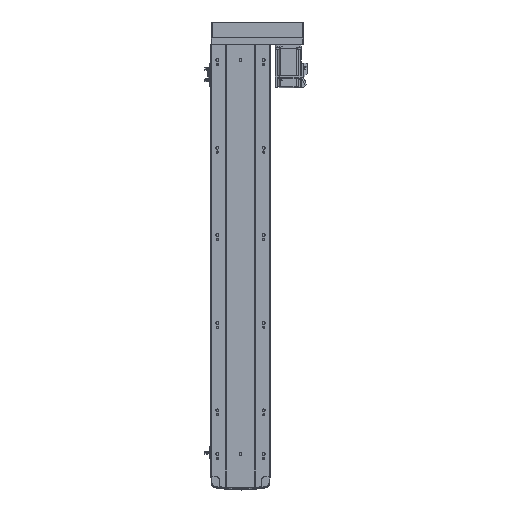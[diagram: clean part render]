
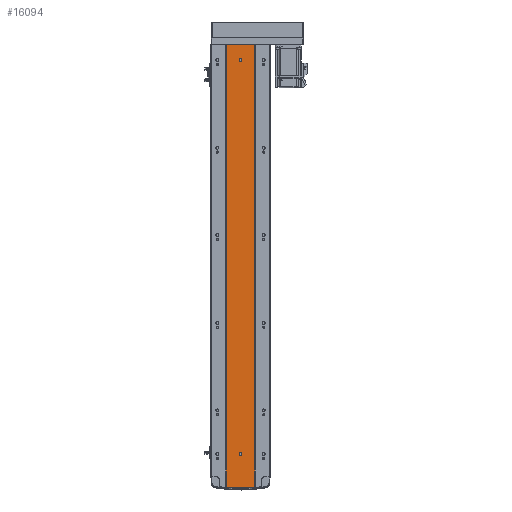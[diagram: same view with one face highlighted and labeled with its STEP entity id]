
A CAD part, top view. The second image highlights one B-rep face of the part: STEP entity #16094.
In plain terms, the highlighted planar face has unit normal (0, 0, 1).
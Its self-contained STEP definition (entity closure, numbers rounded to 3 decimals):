
#576 = LINE ( 'NONE', #60429, #31004 ) ;
#2018 = DIRECTION ( 'NONE',  ( 0., 0., 1. ) ) ;
#2036 = FACE_BOUND ( 'NONE', #46925, .T. ) ;
#2234 = CARTESIAN_POINT ( 'NONE',  ( 0., -36.5, 35.45 ) ) ;
#2279 = VERTEX_POINT ( 'NONE', #23704 ) ;
#6227 = EDGE_CURVE ( 'NONE', #2279, #22730, #58750, .T. ) ;
#7359 = CARTESIAN_POINT ( 'NONE',  ( 3., -935.5, 35.45 ) ) ;
#8913 = VECTOR ( 'NONE', #51544, 1000. ) ;
#9172 = CARTESIAN_POINT ( 'NONE',  ( -32.5, -1011.5, 35.45 ) ) ;
#9599 = EDGE_CURVE ( 'NONE', #17360, #52411, #29610, .T. ) ;
#9944 = AXIS2_PLACEMENT_3D ( 'NONE', #28213, #13946, #28425 ) ;
#10492 = CARTESIAN_POINT ( 'NONE',  ( -32.5, 0., 35.45 ) ) ;
#10806 = VERTEX_POINT ( 'NONE', #11103 ) ;
#11103 = CARTESIAN_POINT ( 'NONE',  ( 32.5, 0., 35.45 ) ) ;
#11334 = DIRECTION ( 'NONE',  ( 1., 0., 0. ) ) ;
#12814 = ORIENTED_EDGE ( 'NONE', *, *, #47952, .F. ) ;
#13946 = DIRECTION ( 'NONE',  ( 0., 0., 1. ) ) ;
#15797 = CARTESIAN_POINT ( 'NONE',  ( 0., -935.5, 35.45 ) ) ;
#16094 = ADVANCED_FACE ( 'NONE', ( #27198, #2036, #27926 ), #33394, .T. ) ;
#16933 = VERTEX_POINT ( 'NONE', #40370 ) ;
#17360 = VERTEX_POINT ( 'NONE', #40715 ) ;
#19238 = CARTESIAN_POINT ( 'NONE',  ( 32.5, -1011.5, 35.45 ) ) ;
#19295 = EDGE_CURVE ( 'NONE', #50517, #17360, #47623, .T. ) ;
#19366 = DIRECTION ( 'NONE',  ( 0., 0., 1. ) ) ;
#20832 = CARTESIAN_POINT ( 'NONE',  ( -32.5, -1011.5, 35.45 ) ) ;
#21097 = DIRECTION ( 'NONE',  ( 0., 0., 1. ) ) ;
#21552 = CARTESIAN_POINT ( 'NONE',  ( -3., -935.5, 35.45 ) ) ;
#21816 = AXIS2_PLACEMENT_3D ( 'NONE', #2234, #2018, #30906 ) ;
#21939 = VERTEX_POINT ( 'NONE', #34623 ) ;
#22004 = EDGE_CURVE ( 'NONE', #2279, #24924, #576, .T. ) ;
#22730 = VERTEX_POINT ( 'NONE', #25130 ) ;
#23704 = CARTESIAN_POINT ( 'NONE',  ( -32.5, -1011.5, 35.45 ) ) ;
#23988 = CARTESIAN_POINT ( 'NONE',  ( 3., -935.5, 35.45 ) ) ;
#24125 = EDGE_CURVE ( 'NONE', #54305, #50517, #28325, .T. ) ;
#24259 = EDGE_LOOP ( 'NONE', ( #12814, #32289, #39148, #44082 ) ) ;
#24594 = CIRCLE ( 'NONE', #63065, 3. ) ;
#24924 = VERTEX_POINT ( 'NONE', #10492 ) ;
#25130 = CARTESIAN_POINT ( 'NONE',  ( 32.5, -1011.5, 35.45 ) ) ;
#27198 = FACE_BOUND ( 'NONE', #24259, .T. ) ;
#27926 = FACE_OUTER_BOUND ( 'NONE', #38966, .T. ) ;
#28213 = CARTESIAN_POINT ( 'NONE',  ( 0., -937.5, 35.45 ) ) ;
#28325 = LINE ( 'NONE', #21552, #37495 ) ;
#28425 = DIRECTION ( 'NONE',  ( 1., 0., 0. ) ) ;
#29290 = ORIENTED_EDGE ( 'NONE', *, *, #6227, .T. ) ;
#29399 = VECTOR ( 'NONE', #39016, 1000. ) ;
#29610 = LINE ( 'NONE', #7359, #55571 ) ;
#30869 = CIRCLE ( 'NONE', #21816, 3. ) ;
#30906 = DIRECTION ( 'NONE',  ( 1., 0., 0. ) ) ;
#30973 = LINE ( 'NONE', #46405, #8913 ) ;
#31004 = VECTOR ( 'NONE', #55944, 1000. ) ;
#32289 = ORIENTED_EDGE ( 'NONE', *, *, #9599, .F. ) ;
#33394 = PLANE ( 'NONE',  #59224 ) ;
#33515 = VECTOR ( 'NONE', #44454, 1000. ) ;
#33801 = DIRECTION ( 'NONE',  ( 1., 0., 0. ) ) ;
#34623 = CARTESIAN_POINT ( 'NONE',  ( 3., -36.5, 35.45 ) ) ;
#36786 = CARTESIAN_POINT ( 'NONE',  ( -3., -937.5, 35.45 ) ) ;
#36907 = DIRECTION ( 'NONE',  ( 0., -1., 0. ) ) ;
#36910 = ORIENTED_EDGE ( 'NONE', *, *, #22004, .F. ) ;
#37495 = VECTOR ( 'NONE', #36907, 1000. ) ;
#37764 = EDGE_CURVE ( 'NONE', #24924, #10806, #30973, .T. ) ;
#38966 = EDGE_LOOP ( 'NONE', ( #56659, #36910, #29290, #53391 ) ) ;
#39016 = DIRECTION ( 'NONE',  ( 0., 1., 0. ) ) ;
#39148 = ORIENTED_EDGE ( 'NONE', *, *, #19295, .F. ) ;
#39213 = EDGE_CURVE ( 'NONE', #22730, #10806, #59957, .T. ) ;
#40370 = CARTESIAN_POINT ( 'NONE',  ( -3., -36.5, 35.45 ) ) ;
#40715 = CARTESIAN_POINT ( 'NONE',  ( 3., -937.5, 35.45 ) ) ;
#40931 = EDGE_CURVE ( 'NONE', #16933, #21939, #44414, .T. ) ;
#44082 = ORIENTED_EDGE ( 'NONE', *, *, #24125, .F. ) ;
#44414 = CIRCLE ( 'NONE', #52591, 3. ) ;
#44454 = DIRECTION ( 'NONE',  ( 1., 0., 0. ) ) ;
#46115 = DIRECTION ( 'NONE',  ( 0., 1., 0. ) ) ;
#46405 = CARTESIAN_POINT ( 'NONE',  ( -32.5, 0., 35.45 ) ) ;
#46925 = EDGE_LOOP ( 'NONE', ( #53886, #58664 ) ) ;
#47623 = CIRCLE ( 'NONE', #9944, 3. ) ;
#47781 = DIRECTION ( 'NONE',  ( 0., 0., 1. ) ) ;
#47952 = EDGE_CURVE ( 'NONE', #52411, #54305, #24594, .T. ) ;
#50517 = VERTEX_POINT ( 'NONE', #36786 ) ;
#51544 = DIRECTION ( 'NONE',  ( 1., 0., 0. ) ) ;
#52411 = VERTEX_POINT ( 'NONE', #23988 ) ;
#52472 = CARTESIAN_POINT ( 'NONE',  ( 0., -36.5, 35.45 ) ) ;
#52591 = AXIS2_PLACEMENT_3D ( 'NONE', #52472, #47781, #62512 ) ;
#53391 = ORIENTED_EDGE ( 'NONE', *, *, #39213, .T. ) ;
#53886 = ORIENTED_EDGE ( 'NONE', *, *, #58073, .F. ) ;
#54305 = VERTEX_POINT ( 'NONE', #54741 ) ;
#54741 = CARTESIAN_POINT ( 'NONE',  ( -3., -935.5, 35.45 ) ) ;
#55571 = VECTOR ( 'NONE', #46115, 1000. ) ;
#55944 = DIRECTION ( 'NONE',  ( 0., 1., 0. ) ) ;
#56659 = ORIENTED_EDGE ( 'NONE', *, *, #37764, .F. ) ;
#58073 = EDGE_CURVE ( 'NONE', #21939, #16933, #30869, .T. ) ;
#58664 = ORIENTED_EDGE ( 'NONE', *, *, #40931, .F. ) ;
#58750 = LINE ( 'NONE', #20832, #33515 ) ;
#59224 = AXIS2_PLACEMENT_3D ( 'NONE', #9172, #19366, #33801 ) ;
#59957 = LINE ( 'NONE', #19238, #29399 ) ;
#60429 = CARTESIAN_POINT ( 'NONE',  ( -32.5, -1011.5, 35.45 ) ) ;
#62512 = DIRECTION ( 'NONE',  ( 1., 0., 0. ) ) ;
#63065 = AXIS2_PLACEMENT_3D ( 'NONE', #15797, #21097, #11334 ) ;
